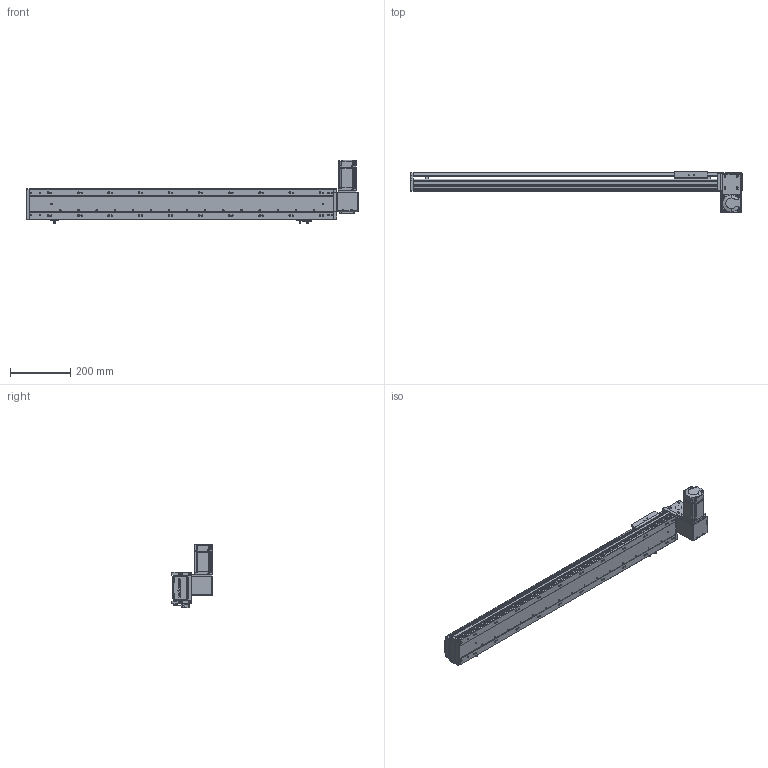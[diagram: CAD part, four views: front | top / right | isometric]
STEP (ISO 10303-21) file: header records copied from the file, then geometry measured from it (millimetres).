
FILE_DESCRIPTION (( 'STEP AP203' ), '1' );
FILE_NAME ('RY100-T-300-DR.SLDASM_800.step', '2024-04-25T03:22:38', ( '盈信电脑' ), ( '东莞市道滘镇水果街19号' ), 'SwSTEP 2.0', 'SolidWorks 2016', '' );
FILE_SCHEMA (( 'CONFIG_CONTROL_DESIGN' ));
Length unit declared in the file: millimetre
Products named in the file (16): 1; RY100-T翋肮祭謫裔啣2; 侂狟200W萇儂; RY100-T-300-RK倰第奻裔_800; RY80-T肮祭謫狟殏俋欶; RY100-T左右折电机安装板; RY100-T翋肮祭謫裔啣; 覜茼ん672; RY100綴裔啣; RY100-T-300-DR.SLDASM_800; RY100-T肮祭謫臏賑輸; RY100-T肮祭謫翋盓傅釱; 滅袉蝶18-10; RY100-T-300-RK倰第菁釱_800; RY100-T粣創揤踡裔; RY100俋离覜茼え
Assembly tree (19 placements, depth 3):
  RY100-T-300-DR.SLDASM_800
    RY100-T-300-RK倰第菁釱_800
    RY100-T-300-RK倰第奻裔_800
    RY100-T肮祭謫臏賑輸
    RY100綴裔啣
    覜茼ん672  x3
    RY100俋离覜茼え
    RY100-T肮祭謫翋盓傅釱
    RY100-T左右折电机安装板
    侂狟200W萇儂
      1
    RY100-T粣創揤踡裔
    滅袉蝶18-10  x2
    RY100-T翋肮祭謫裔啣2  x2
    RY100-T翋肮祭謫裔啣
    RY80-T肮祭謫狟殏俋欶
Bounding box: 1100 x 135.5 x 209.7 mm (x, y, z)
Volume: 2318343.3 mm3; surface area: 953671.1 mm2
Topology: 18 solids, 18 shells, 2277 faces, 6352 edges, 4128 vertices
Faces by surface type: plane 1225, cylinder 837, cone 137, bspline 78
Entity records: 73451 total; most frequent: CARTESIAN_POINT 17914, ORIENTED_EDGE 11440, DIRECTION 10860, EDGE_CURVE 5720, VERTEX_POINT 3764, VECTOR 3662, LINE 3662, AXIS2_PLACEMENT_3D 3599
